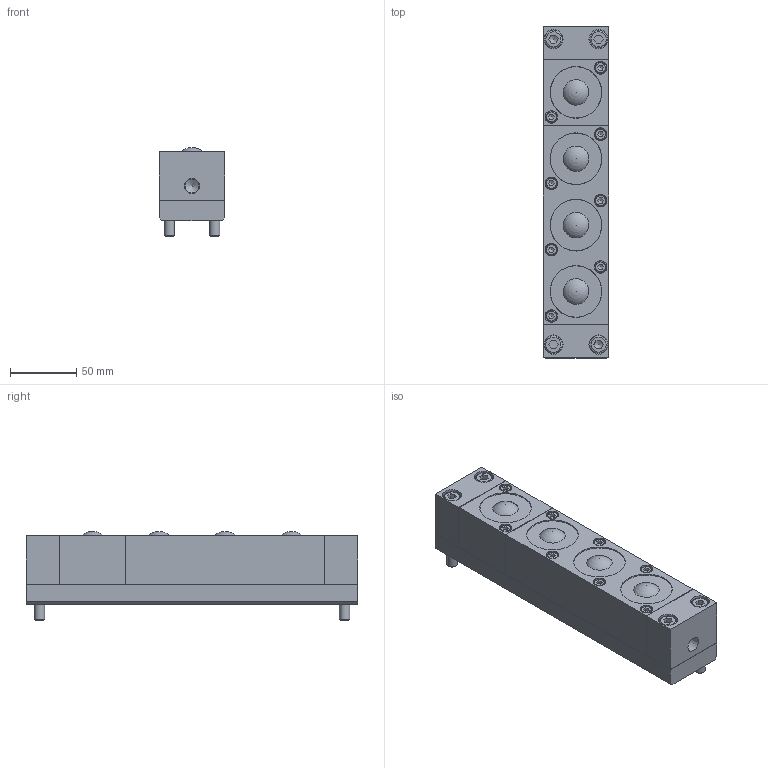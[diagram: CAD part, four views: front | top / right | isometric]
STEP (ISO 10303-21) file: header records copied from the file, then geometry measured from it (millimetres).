
FILE_DESCRIPTION(/* description */ (''),/* implementation_level */ '2;1');
FILE_NAME(/* name */ 'Z:\34-Tei\01-web 3Dデータ\08-ISR-C50S型\ISR-C50S-250-A.stp',/* time_stamp */ '2015-01-15T15:48:49+09:00',/* author */ ('yamaki'),/* organization */ (''),/* preprocessor_version */ 'ST-DEVELOPER v15.6',/* originating_system */ 'Autodesk Inventor 2015',/* authorisation */ '');
FILE_SCHEMA (('AUTOMOTIVE_DESIGN { 1 0 10303 214 3 1 1 }'));
Length unit declared in the file: millimetre
Products named in the file (6): 4200AT-01-250; 4601SL; 4600AA; ISO 4762 - M8 x 55ISO; 4601SL-3; ISR-C50S-100-A
Bounding box: 49.5 x 250 x 67 mm (x, y, z)
Volume: 618094.8 mm3; surface area: 141039.2 mm2
Topology: 9 solids, 9 shells, 266 faces, 563 edges, 358 vertices
Faces by surface type: plane 185, cylinder 45, cone 18, torus 14, sphere 4
Full cylindrical faces by diameter (mm): 8 x2, 8.5 x8, 9 x2, 9.5 x8, 10.5 x1, 13 x4, 14.5 x4, 38.7 x4, 39 x4, 42 x8
Entity records: 5889 total; most frequent: CARTESIAN_POINT 1060, DIRECTION 936, ORIENTED_EDGE 828, EDGE_CURVE 414, AXIS2_PLACEMENT_3D 334, EDGE_LOOP 330, VERTEX_POINT 296, LINE 268
